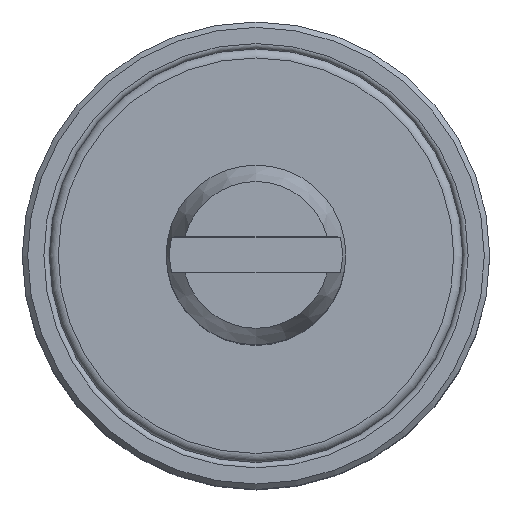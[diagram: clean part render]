
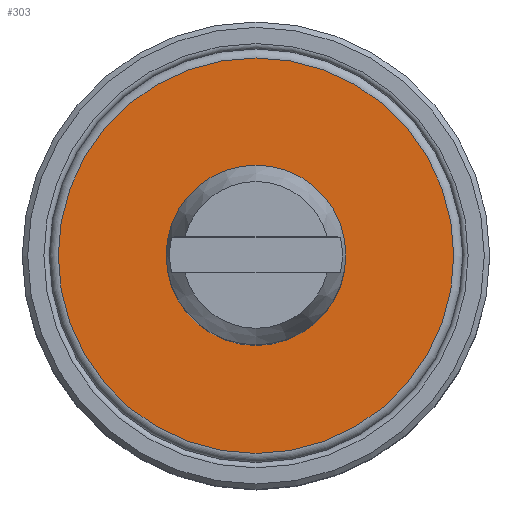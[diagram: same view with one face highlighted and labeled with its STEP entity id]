
A CAD part, top view. The second image highlights one B-rep face of the part: STEP entity #303.
In plain terms, the highlighted planar face has unit normal (0, 0, 1).
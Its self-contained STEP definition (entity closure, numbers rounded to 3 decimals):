
#24=FACE_BOUND('',#99,.T.);
#62=PLANE('',#335);
#73=FACE_OUTER_BOUND('',#98,.T.);
#98=EDGE_LOOP('',(#235));
#99=EDGE_LOOP('',(#236));
#139=CIRCLE('',#336,11.);
#140=CIRCLE('',#337,4.);
#165=VERTEX_POINT('',#507);
#166=VERTEX_POINT('',#509);
#195=EDGE_CURVE('',#165,#165,#139,.T.);
#196=EDGE_CURVE('',#166,#166,#140,.T.);
#235=ORIENTED_EDGE('',*,*,#195,.T.);
#236=ORIENTED_EDGE('',*,*,#196,.F.);
#303=ADVANCED_FACE('',(#73,#24),#62,.T.);
#335=AXIS2_PLACEMENT_3D('',#506,#399,#400);
#336=AXIS2_PLACEMENT_3D('',#508,#401,#402);
#337=AXIS2_PLACEMENT_3D('',#510,#403,#404);
#399=DIRECTION('center_axis',(0.,0.,1.));
#400=DIRECTION('ref_axis',(1.,0.,0.));
#401=DIRECTION('center_axis',(0.,0.,1.));
#402=DIRECTION('ref_axis',(0.,-1.,0.));
#403=DIRECTION('center_axis',(0.,0.,1.));
#404=DIRECTION('ref_axis',(0.,-1.,0.));
#506=CARTESIAN_POINT('Origin',(0.,-2.,0.));
#507=CARTESIAN_POINT('',(0.,-11.,0.));
#508=CARTESIAN_POINT('Origin',(0.,0.,0.));
#509=CARTESIAN_POINT('',(0.,-4.,0.));
#510=CARTESIAN_POINT('Origin',(0.,0.,0.));
